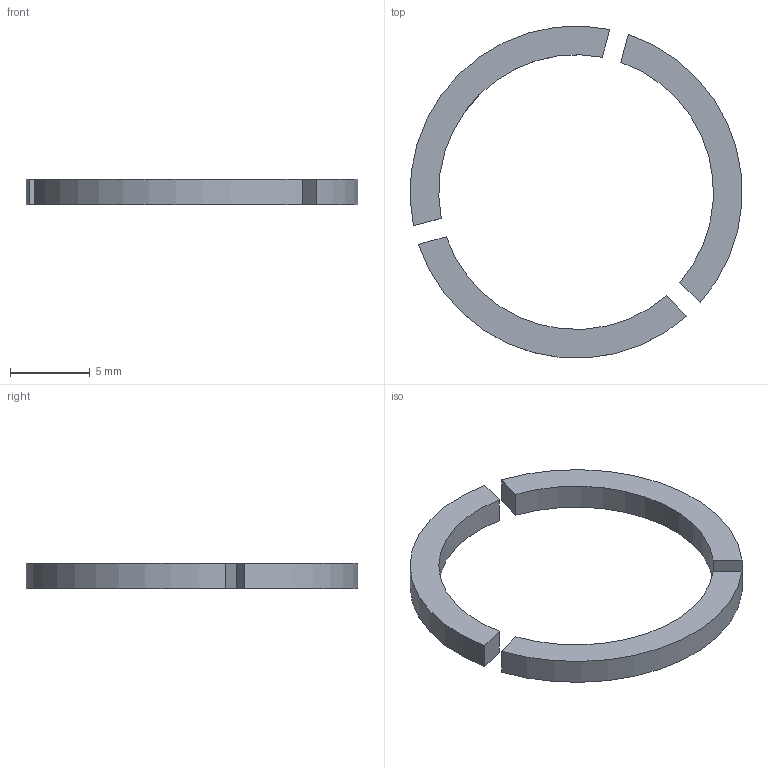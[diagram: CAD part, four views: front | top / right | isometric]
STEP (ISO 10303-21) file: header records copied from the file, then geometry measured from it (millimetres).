
FILE_DESCRIPTION(('Open CASCADE Model'),'2;1');
FILE_NAME('Open CASCADE Shape Model','2026-10-19T00:08:47',('Author'),( 'Open CASCADE'),'Open CASCADE STEP processor 7.9','Open CASCADE 7.9' ,'Unknown');
FILE_SCHEMA(('AUTOMOTIVE_DESIGN { 1 0 10303 214 1 1 1 1 }'));
Length unit declared in the file: millimetre
Products named in the file (4): Open CASCADE STEP translator 7.9 5; Open CASCADE STEP translator 7.9 5.1; Open CASCADE STEP translator 7.9 5.2; Open CASCADE STEP translator 7.9 5.3
Assembly tree (3 placements, depth 2):
  Open CASCADE STEP translator 7.9 5
    Open CASCADE STEP translator 7.9 5.1
    Open CASCADE STEP translator 7.9 5.2
    Open CASCADE STEP translator 7.9 5.3
Bounding box: 20.77 x 20.77 x 1.6 mm (x, y, z)
Volume: 161.5 mm3; surface area: 398.7 mm2
Topology: 3 solids, 3 shells, 18 faces, 36 edges, 24 vertices
Faces by surface type: plane 12, cylinder 6
Entity records: 1030 total; most frequent: CARTESIAN_POINT 214, DIRECTION 154, LINE 84, VECTOR 84, ORIENTED_EDGE 72, PCURVE 72, DEFINITIONAL_REPRESENTATION 72, EDGE_CURVE 36
